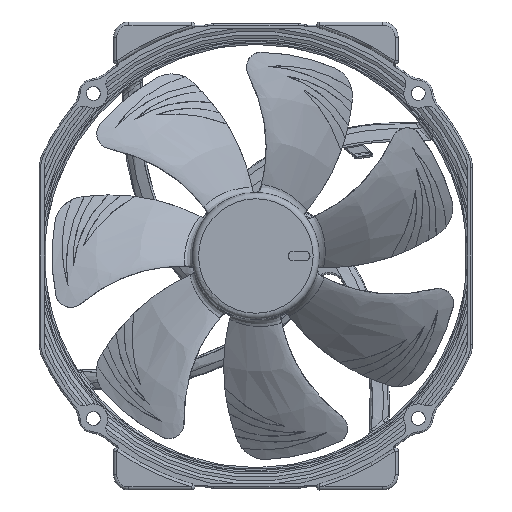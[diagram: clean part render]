
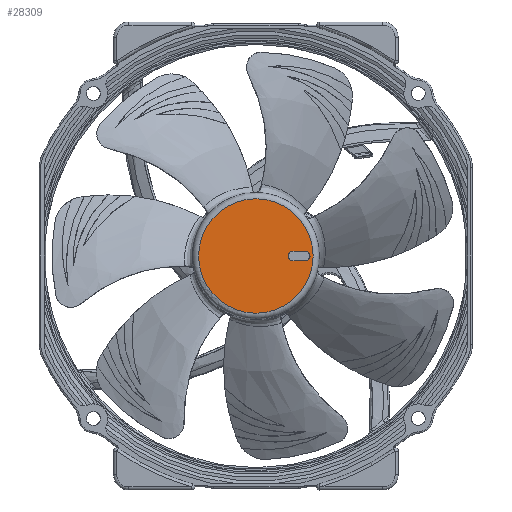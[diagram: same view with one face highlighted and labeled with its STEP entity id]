
A CAD part, left-side view. The second image highlights one B-rep face of the part: STEP entity #28309.
In plain terms, the highlighted planar face has unit normal (-1, 0, 0) as drawn and (0, 1, 0) by its records, which use the part's own axes.
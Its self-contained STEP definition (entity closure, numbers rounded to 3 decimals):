
#2364=CIRCLE('',#31390,1.5);
#2365=CIRCLE('',#31391,1.5);
#2366=CIRCLE('',#31392,18.5);
#10067=ORIENTED_EDGE('',*,*,#16137,.F.);
#10068=ORIENTED_EDGE('',*,*,#16138,.F.);
#10069=ORIENTED_EDGE('',*,*,#16139,.F.);
#10070=ORIENTED_EDGE('',*,*,#16140,.F.);
#10071=ORIENTED_EDGE('',*,*,#16141,.T.);
#16137=EDGE_CURVE('',#19540,#19541,#21716,.T.);
#16138=EDGE_CURVE('',#19542,#19540,#2364,.T.);
#16139=EDGE_CURVE('',#19543,#19542,#21717,.T.);
#16140=EDGE_CURVE('',#19541,#19543,#2365,.T.);
#16141=EDGE_CURVE('',#19544,#19544,#2366,.F.);
#19540=VERTEX_POINT('',#56240);
#19541=VERTEX_POINT('',#56241);
#19542=VERTEX_POINT('',#56243);
#19543=VERTEX_POINT('',#56245);
#19544=VERTEX_POINT('',#56248);
#21716=LINE('',#56239,#23144);
#21717=LINE('',#56244,#23145);
#23144=VECTOR('',#37795,1000.);
#23145=VECTOR('',#37798,1000.);
#24741=EDGE_LOOP('',(#10067,#10068,#10069,#10070));
#24742=EDGE_LOOP('',(#10071));
#26350=FACE_BOUND('',#24741,.T.);
#26351=FACE_BOUND('',#24742,.T.);
#27060=PLANE('',#31389);
#28309=ADVANCED_FACE('',(#26350,#26351),#27060,.F.);
#31389=AXIS2_PLACEMENT_3D('',#56238,#37793,#37794);
#31390=AXIS2_PLACEMENT_3D('',#56242,#37796,#37797);
#31391=AXIS2_PLACEMENT_3D('',#56246,#37799,#37800);
#31392=AXIS2_PLACEMENT_3D('',#56247,#37801,#37802);
#37793=DIRECTION('',(0.,-1.,0.));
#37794=DIRECTION('',(0.,0.,-1.));
#37795=DIRECTION('',(-1.,0.,0.));
#37796=DIRECTION('',(0.,1.,0.));
#37797=DIRECTION('',(0.,0.,1.));
#37798=DIRECTION('',(1.,0.,0.));
#37799=DIRECTION('',(0.,1.,0.));
#37800=DIRECTION('',(0.,0.,-1.));
#37801=DIRECTION('',(0.,-1.,0.));
#37802=DIRECTION('',(0.,0.,-1.));
#56238=CARTESIAN_POINT('',(0.,7.,0.));
#56239=CARTESIAN_POINT('',(-12.,7.,-1.5));
#56240=CARTESIAN_POINT('',(-12.,7.,-1.5));
#56241=CARTESIAN_POINT('',(-16.,7.,-1.5));
#56242=CARTESIAN_POINT('',(-12.,7.,0.));
#56243=CARTESIAN_POINT('',(-12.,7.,1.5));
#56244=CARTESIAN_POINT('',(-16.,7.,1.5));
#56245=CARTESIAN_POINT('',(-16.,7.,1.5));
#56246=CARTESIAN_POINT('',(-16.,7.,0.));
#56247=CARTESIAN_POINT('',(0.,7.,0.));
#56248=CARTESIAN_POINT('',(0.,7.,-18.5));
